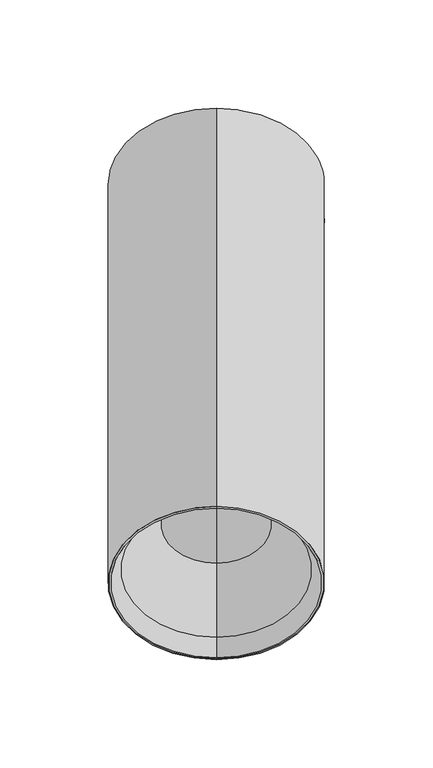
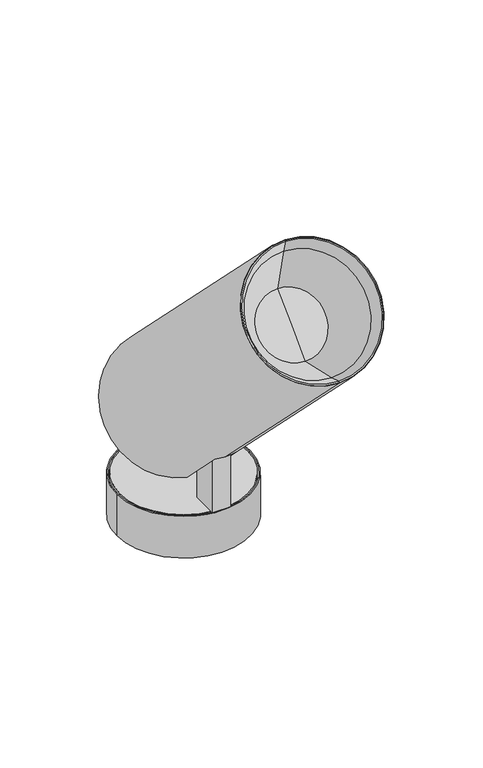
"""IFC4 building model written with IfcOpenShell, lengths in millimetres: light fixture geometry, PIPES C S : 1700 21W-830 28°."""

from ifc_helpers import new_model, si_unit, point, frame, frame_2d, origin, origin_with_axes, origin_2d, place, context, project, spatial, polyline, circle_curve, trimmed, segment, composite_curve, outline, extrude, source, transform, mapped, element, save
from ifc_brep_helpers import plane_surface, cylinder_surface, revolved_surface, advanced_brep


def light_fixture_deb394d0(model_context):
    return source(origin(), model_context, "Body", "SolidModel", [
        advanced_brep(
        [(8.0, -40.7071068, 92.8492424), (8.0, -12.4228355, 64.5649712), (8.0, -24.6760332, 52.3117735), (8.0, -16.8978586, 44.5335989), (8.0, -18.3313142, 43.1001433), (8.0, -54.3937601, 79.1625891), (-8.0, -40.7071068, 92.8492424), (-8.0, -54.3937601, 79.1625891), (-8.0, -18.3313142, 43.1001433), (-8.0, -16.8978586, 44.5335989), (-8.0, -24.6760332, 52.3117735), (-8.0, -12.4228355, 64.5649712), (0.0, -12.4228355, 64.5649712), (0.0, -54.8492424, 78.7071068), (0.0, -131.9238816, 297.2031022), (0.0, -202.6345597, 226.492424), (0.0, -192.4399527, 223.5599433), (0.0, -128.9914008, 287.0084952), (0.0, 51.9238816, 113.3553391), (0.0, 50.509668, 111.9411255), (0.0, 42.7314934, 119.7193001), (0.0, 8.7903679, 85.7781746), (0.0, -121.1401713, 252.3808823), (0.0, -157.8123398, 215.7087138), (0.0, -139.4762556, 234.0447981)],
        [
            (0, 1),
            (1, 2),
            (2, 3),
            (3, 4),
            (4, 5),
            (5, 0),
            (6, 7),
            (7, 8),
            (8, 9),
            (9, 10),
            (10, 11),
            (11, 6),
            (0, 6),
            (11, 12),
            (12, 1),
            (5, 13, circle_curve(frame((0.0, -19.4939033, 114.0624458), z_axis=(0.0, 0.7071067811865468, -0.7071067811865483), x_axis=(0.0, -0.7071067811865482, -0.7071067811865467)), 50.0)),
            (13, 7, circle_curve(frame((0.0, -19.4939033, 114.0624458), z_axis=(0.0, 0.7071067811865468, -0.7071067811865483), x_axis=(0.0, -0.7071067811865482, -0.7071067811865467)), 50.0)),
            (14, 15, circle_curve(frame((0.0, -167.2792206, 261.8477631), z_axis=(0.0, -0.7071067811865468, 0.7071067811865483), x_axis=(0.0, -0.7071067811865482, -0.7071067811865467)), 50.0)),
            (15, 16),
            (16, 17, circle_curve(frame((0.0, -160.7156767, 255.2842192), z_axis=(0.0, 0.7071067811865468, -0.7071067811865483), x_axis=(0.0, -0.7071067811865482, -0.7071067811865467)), 44.8649013)),
            (17, 14),
            (15, 14, circle_curve(frame((0.0, -167.2792206, 261.8477631), z_axis=(0.0, -0.7071067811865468, 0.7071067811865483), x_axis=(0.0, -0.7071067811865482, -0.7071067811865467)), 50.0)),
            (17, 16, circle_curve(frame((0.0, -160.7156767, 255.2842192), z_axis=(0.0, 0.7071067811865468, -0.7071067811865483), x_axis=(0.0, -0.7071067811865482, -0.7071067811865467)), 44.8649013)),
            (14, 18),
            (18, 8, circle_curve(frame((0.0, 16.5685425, 78.0), z_axis=(0.0, -0.7071067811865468, 0.7071067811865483), x_axis=(0.0, -0.7071067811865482, -0.7071067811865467)), 50.0)),
            (13, 15),
            (4, 18, circle_curve(frame((0.0, 16.5685425, 78.0), z_axis=(0.0, -0.7071067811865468, 0.7071067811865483), x_axis=(0.0, -0.7071067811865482, -0.7071067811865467)), 50.0)),
            (18, 19),
            (19, 9, circle_curve(frame((0.0, 16.5685425, 78.0), z_axis=(0.0, -0.7071067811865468, 0.7071067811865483), x_axis=(0.0, -0.7071067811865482, -0.7071067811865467)), 48.0)),
            (3, 19, circle_curve(frame((0.0, 16.5685425, 78.0), z_axis=(0.0, -0.7071067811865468, 0.7071067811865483), x_axis=(0.0, -0.7071067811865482, -0.7071067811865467)), 48.0)),
            (19, 20),
            (20, 10, circle_curve(frame((0.0, 8.7903679, 85.7781746), z_axis=(0.0, -0.7071067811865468, 0.7071067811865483), x_axis=(0.0, -0.7071067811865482, -0.7071067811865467)), 48.0)),
            (2, 20, circle_curve(frame((0.0, 8.7903679, 85.7781746), z_axis=(0.0, -0.7071067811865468, 0.7071067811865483), x_axis=(0.0, -0.7071067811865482, -0.7071067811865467)), 48.0)),
            (20, 21),
            (21, 12),
            (22, 23, circle_curve(frame((0.0, -139.4762556, 234.0447981), z_axis=(0.0, -0.7071067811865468, 0.7071067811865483), x_axis=(0.0, -0.7071067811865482, -0.7071067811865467)), 25.931139)),
            (23, 24),
            (24, 22),
            (23, 22, circle_curve(frame((0.0, -139.4762556, 234.0447981), z_axis=(0.0, -0.7071067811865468, 0.7071067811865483), x_axis=(0.0, -0.7071067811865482, -0.7071067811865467)), 25.931139)),
            (16, 23),
            (22, 17),
        ],
        [
            plane_surface(frame((8.0, -40.7071068, 92.8492424), z_axis=(-1.0000000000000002, 0.0, 0.0), x_axis=(0.0, -0.707106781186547, 0.7071067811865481))),
            plane_surface(frame((-8.0, -40.7071068, 92.8492424), z_axis=(1.0000000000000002, 0.0, 0.0), x_axis=(0.0, 0.707106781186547, -0.7071067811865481))),
            plane_surface(frame((-8.0, -40.7071068, 92.8492424), z_axis=(0.0, -0.7071067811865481, -0.707106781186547), x_axis=(1.0, 0.0, 0.0))),
            plane_surface(frame((-8.0, -58.3847763, 75.1715729), z_axis=(0.0, 0.7071067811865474, -0.7071067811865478), x_axis=(1.0, 0.0, 0.0))),
            revolved_surface(polyline([(0.0, -192.4399527, 223.5599433), (0.0, -202.6345597, 226.492424)]), (0.0, 20.423958, 74.1445845), (0.0, 0.7071067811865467, -0.7071067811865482)),
            cylinder_surface(frame((0.0, 20.423958, 74.1445845), z_axis=(0.0, 0.7071067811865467, -0.7071067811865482), x_axis=(0.0, -0.7071067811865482, -0.7071067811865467)), 50.0),
            plane_surface(frame((0.0, 16.5685425, 78.0), z_axis=(0.0, 0.7071067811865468, -0.7071067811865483), x_axis=(0.0, -0.7071067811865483, -0.7071067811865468))),
            revolved_surface(polyline([(0.0, -17.37258299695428, 44.05887450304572), (0.0, -25.150757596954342, 51.8370491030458)]), (0.0, 20.423958, 74.1445845), (0.0, 0.7071067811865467, -0.7071067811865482)),
            plane_surface(frame((0.0, 8.7903679, 85.7781746), z_axis=(0.0, 0.7071067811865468, -0.7071067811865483), x_axis=(0.0, -0.7071067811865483, -0.7071067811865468))),
            plane_surface(frame((0.0, -139.4762556, 234.0447981), z_axis=(0.0, -0.7071067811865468, 0.7071067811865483), x_axis=(0.0, -0.7071067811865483, -0.7071067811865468))),
            revolved_surface(polyline([(0.0, -157.8123398, 215.7087138), (0.0, -192.4399527, 223.5599433)]), (0.0, 20.423958, 74.1445845), (0.0, 0.7071067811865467, -0.7071067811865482)),
        ],
        [
            (0, [[1, 2, 3, 4, 5, 6]]),
            (1, [[7, 8, 9, 10, 11, 12]]),
            (2, [[13, -12, 14, 15, -1]]),
            (3, [[-13, -6, 16, 17, -7]]),
            (4, [[18, 19, 20, 21]]),
            (4, [[-19, 22, -21, 23]]),
            (5, [[-18, 24, 25, -8, -17, 26]]),
            (5, [[-22, -26, -16, -5, 27, -24]]),
            (6, [[28, 29, -9, -25]]),
            (6, [[-28, -27, -4, 30]]),
            (7, [[31, 32, -10, -29]]),
            (7, [[-31, -30, -3, 33]]),
            (8, [[34, 35, -14, -11, -32]]),
            (8, [[-34, -33, -2, -15, -35]]),
            (9, [[36, 37, 38]]),
            (9, [[-37, 39, -38]]),
            (10, [[-20, 40, -36, 41]]),
            (10, [[-23, -41, -39, -40]]),
        ],
    ),
        advanced_brep(
        [(8.0, -6.0588745, 58.2010101), (8.0, -4.6446609, 56.7867966), (8.0, -15.4617748, 45.9696827), (8.0, -16.8759884, 47.3838962), (-8.0, -4.6446609, 56.7867966), (-8.0, -6.0588745, 58.2010101), (-8.0, -16.8759884, 47.3838962), (-8.0, -15.4617748, 45.9696827), (0.0, -6.0588745, 58.2010101), (0.0, -4.6446609, 56.7867966), (0.0, 15.3916912, 79.6515758), (0.0, 48.1514705, 112.4113551), (0.0, 49.5656841, 110.9971416), (0.0, 16.8059047, 78.2373622)],
        [
            (0, 1),
            (1, 2),
            (2, 3),
            (3, 0),
            (4, 5),
            (5, 6),
            (6, 7),
            (7, 4),
            (0, 8),
            (8, 5),
            (4, 9),
            (9, 1),
            (10, 11),
            (11, 6, circle_curve(frame((0.0, 15.3916912, 79.6515758), z_axis=(0.0, -0.7071067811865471, 0.7071067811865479), x_axis=(0.0, -0.7071067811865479, -0.7071067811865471)), 46.3293243)),
            (8, 10),
            (3, 11, circle_curve(frame((0.0, 15.3916912, 79.6515758), z_axis=(0.0, -0.7071067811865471, 0.7071067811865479), x_axis=(0.0, -0.7071067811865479, -0.7071067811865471)), 46.3293243)),
            (11, 12),
            (12, 7, circle_curve(frame((0.0, 16.8059047, 78.2373622), z_axis=(0.0, -0.7071067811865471, 0.7071067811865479), x_axis=(0.0, -0.7071067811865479, -0.7071067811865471)), 46.3293243)),
            (2, 12, circle_curve(frame((0.0, 16.8059047, 78.2373622), z_axis=(0.0, -0.7071067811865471, 0.7071067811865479), x_axis=(0.0, -0.7071067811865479, -0.7071067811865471)), 46.3293243)),
            (12, 13),
            (13, 9),
        ],
        [
            plane_surface(frame((8.0, -40.7071068, 92.8492424), z_axis=(-1.0000000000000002, 0.0, 0.0), x_axis=(0.0, -0.707106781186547, 0.7071067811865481))),
            plane_surface(frame((-8.0, -40.7071068, 92.8492424), z_axis=(1.0000000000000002, 0.0, 0.0), x_axis=(0.0, 0.707106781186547, -0.7071067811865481))),
            plane_surface(frame((-8.0, -40.7071068, 92.8492424), z_axis=(0.0, -0.7071067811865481, -0.707106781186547), x_axis=(1.0, 0.0, 0.0))),
            plane_surface(frame((0.0, 15.3916912, 79.6515758), z_axis=(0.0, -0.7071067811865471, 0.7071067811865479), x_axis=(0.0, -0.7071067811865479, -0.7071067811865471))),
            cylinder_surface(frame((0.0, 20.6613203, 74.3819467), z_axis=(0.0, 0.7071067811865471, -0.7071067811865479), x_axis=(0.0, -0.7071067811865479, -0.7071067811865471)), 46.3293243),
            plane_surface(frame((0.0, 16.8059047, 78.2373622), z_axis=(0.0, 0.7071067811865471, -0.7071067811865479), x_axis=(0.0, -0.7071067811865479, -0.7071067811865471))),
        ],
        [
            (0, [[1, 2, 3, 4]]),
            (1, [[5, 6, 7, 8]]),
            (2, [[-1, 9, 10, -5, 11, 12]]),
            (3, [[13, 14, -6, -10, 15]]),
            (3, [[-13, -15, -9, -4, 16]]),
            (4, [[17, 18, -7, -14]]),
            (4, [[-17, -16, -3, 19]]),
            (5, [[20, 21, -11, -8, -18]]),
            (5, [[-20, -19, -2, -12, -21]]),
        ],
    ),
        advanced_brep(
        [(0.0, -131.9238816, 297.2031022), (0.0, -202.6345597, 226.492424), (0.0, -201.8264604, 227.3005233), (0.0, -132.7319808, 296.3950029), (0.0, -122.2374197, 252.6978475), (0.0, -158.129305, 216.8059622), (0.0, -140.1833624, 234.7519049), (0.0, -129.9603297, 286.7595114), (0.0, -192.1909689, 224.5288722), (0.0, -128.9914008, 287.0084952), (0.0, -192.4399527, 223.5599433), (0.0, -121.1401713, 252.3808823), (0.0, -157.8123398, 215.7087138), (0.0, -139.4762556, 234.0447981)],
        [
            (0, 1, circle_curve(frame((0.0, -167.2792206, 261.8477631), z_axis=(0.0, -0.7071067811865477, 0.7071067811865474), x_axis=(0.0, -0.7071067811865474, -0.7071067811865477)), 50.0)),
            (1, 2),
            (2, 3, circle_curve(frame((0.0, -167.2792206, 261.8477631), z_axis=(0.0, 0.7071067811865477, -0.7071067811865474), x_axis=(0.0, -0.7071067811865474, -0.7071067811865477)), 48.857175)),
            (3, 0),
            (1, 0, circle_curve(frame((0.0, -167.2792206, 261.8477631), z_axis=(0.0, -0.7071067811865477, 0.7071067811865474), x_axis=(0.0, -0.7071067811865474, -0.7071067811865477)), 50.0)),
            (3, 2, circle_curve(frame((0.0, -167.2792206, 261.8477631), z_axis=(0.0, 0.7071067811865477, -0.7071067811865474), x_axis=(0.0, -0.7071067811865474, -0.7071067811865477)), 48.857175)),
            (4, 5, circle_curve(frame((0.0, -140.1833624, 234.7519049), z_axis=(0.0, -0.7071067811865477, 0.7071067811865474), x_axis=(0.0, -0.7071067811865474, -0.7071067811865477)), 25.3793955)),
            (5, 6),
            (6, 4),
            (5, 4, circle_curve(frame((0.0, -140.1833624, 234.7519049), z_axis=(0.0, -0.7071067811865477, 0.7071067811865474), x_axis=(0.0, -0.7071067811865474, -0.7071067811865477)), 25.3793955)),
            (7, 8, circle_curve(frame((0.0, -161.0756493, 255.6441918), z_axis=(0.0, -0.7071067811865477, 0.7071067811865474), x_axis=(0.0, -0.7071067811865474, -0.7071067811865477)), 44.0037069)),
            (8, 5),
            (4, 7),
            (8, 7, circle_curve(frame((0.0, -161.0756493, 255.6441918), z_axis=(0.0, -0.7071067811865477, 0.7071067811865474), x_axis=(0.0, -0.7071067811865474, -0.7071067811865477)), 44.0037069)),
            (9, 10, circle_curve(frame((0.0, -160.7156767, 255.2842192), z_axis=(0.0, -0.7071067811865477, 0.7071067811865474), x_axis=(0.0, -0.7071067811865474, -0.7071067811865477)), 44.8649013)),
            (10, 1),
            (0, 9),
            (10, 9, circle_curve(frame((0.0, -160.7156767, 255.2842192), z_axis=(0.0, -0.7071067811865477, 0.7071067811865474), x_axis=(0.0, -0.7071067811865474, -0.7071067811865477)), 44.8649013)),
            (11, 12, circle_curve(frame((0.0, -139.4762556, 234.0447981), z_axis=(0.0, -0.7071067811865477, 0.7071067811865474), x_axis=(0.0, -0.7071067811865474, -0.7071067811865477)), 25.931139)),
            (12, 10),
            (9, 11),
            (12, 11, circle_curve(frame((0.0, -139.4762556, 234.0447981), z_axis=(0.0, -0.7071067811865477, 0.7071067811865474), x_axis=(0.0, -0.7071067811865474, -0.7071067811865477)), 25.931139)),
            (13, 12),
            (11, 13),
            (2, 8),
            (7, 3),
        ],
        [
            plane_surface(frame((0.0, -167.2792206, 261.8477631), z_axis=(0.0, -0.7071067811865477, 0.7071067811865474), x_axis=(0.0, -0.7071067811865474, -0.7071067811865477))),
            plane_surface(frame((0.0, -140.1833624, 234.7519049), z_axis=(0.0, -0.7071067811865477, 0.7071067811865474), x_axis=(0.0, -0.7071067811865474, -0.7071067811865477))),
            revolved_surface(polyline([(0.0, -158.129305, 216.8059622), (0.0, -192.1909689, 224.5288722)]), (0.0, 20.9994331, 73.5691094), (0.0, 0.7071067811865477, -0.7071067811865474)),
            revolved_surface(polyline([(0.0, -202.6345597, 226.492424), (0.0, -192.4399527, 223.5599433)]), (0.0, 20.9994331, 73.5691094), (0.0, 0.7071067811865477, -0.7071067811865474)),
            revolved_surface(polyline([(0.0, -192.4399527, 223.5599433), (0.0, -157.8123398, 215.7087138)]), (0.0, 20.9994331, 73.5691094), (0.0, 0.7071067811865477, -0.7071067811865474)),
            plane_surface(frame((0.0, -139.4762556, 234.0447981), z_axis=(0.0, 0.7071067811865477, -0.7071067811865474), x_axis=(0.0, -0.7071067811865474, -0.7071067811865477))),
            revolved_surface(polyline([(0.0, -192.1909689, 224.5288722), (0.0, -201.8264604, 227.3005233)]), (0.0, 20.9994331, 73.5691094), (0.0, 0.7071067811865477, -0.7071067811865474)),
        ],
        [
            (0, [[1, 2, 3, 4]]),
            (0, [[5, -4, 6, -2]]),
            (1, [[7, 8, 9]]),
            (1, [[10, -9, -8]]),
            (2, [[11, 12, -7, 13]]),
            (2, [[14, -13, -10, -12]]),
            (3, [[15, 16, -1, 17]]),
            (3, [[18, -17, -5, -16]]),
            (4, [[19, 20, -15, 21]]),
            (4, [[22, -21, -18, -20]]),
            (5, [[23, -19, 24]]),
            (5, [[-24, -22, -23]]),
            (6, [[-3, 25, -11, 26]]),
            (6, [[-6, -26, -14, -25]]),
        ],
    ),
        extrude(outline(composite_curve([segment(trimmed(circle_curve(origin_2d(), 48.0), [point((-48.0, 0.0))], [point((48.0, 0.0))], False, "CARTESIAN"), True, "CONTINUOUS"), segment(trimmed(circle_curve(origin_2d(), 48.0), [point((48.0, 0.0))], [point((-48.0, 0.0))], False, "CARTESIAN"), True, "CONTINUOUS")], self_intersect=False)), origin_with_axes(), (0.0, 0.0, 1.0), 33.0),
        extrude(outline(composite_curve([segment(polyline([(-30.0074467, 79.5474065), (-30.0074467, 33.0), (-49.0, 33.0), (-49.0, 86.7928568), (-46.5, 86.7928568), (-46.5, 89.0), (-37.3622808, 87.7157773)]), True, "CONTINUOUS"), segment(trimmed(circle_curve(frame_2d((-38.5522063, 79.2490169)), 8.5499681), [point((-37.3622808, 87.7157773))], [point((-30.0074467, 79.5474065))], False, "CARTESIAN"), True, "CONTINUOUS")], self_intersect=False)), frame((-7.0, 0.0, 0.0), z_axis=(1.0, 0.0, 0.0), x_axis=(0.0, 1.0, 0.0)), (0.0, 0.0, 1.0), 14.0),
        extrude(outline(composite_curve([segment(trimmed(circle_curve(origin_2d(), 50.0), [point((-50.0, 0.0))], [point((50.0, 0.0))], False, "CARTESIAN"), True, "CONTINUOUS"), segment(trimmed(circle_curve(origin_2d(), 50.0), [point((50.0, 0.0))], [point((-50.0, 0.0))], False, "CARTESIAN"), True, "CONTINUOUS")], self_intersect=False), holes=[composite_curve([segment(trimmed(circle_curve(origin_2d(), 49.0), [point((-49.0, 0.0))], [point((49.0, 0.0))], True, "CARTESIAN"), True, "CONTINUOUS"), segment(trimmed(circle_curve(origin_2d(), 49.0), [point((49.0, 0.0))], [point((-49.0, 0.0))], True, "CARTESIAN"), True, "CONTINUOUS")], self_intersect=False)]), origin_with_axes(), (0.0, 0.0, 1.0), 33.0),
    ])


if __name__ == "__main__":
    model = new_model("IFC4")
    model_context = context("Model", 3, world=origin())
    ifc_project = project(units=[si_unit("LENGTHUNIT", "METRE", prefix="MILLI")], contexts=[model_context])
    site = spatial("IfcSite", under=ifc_project)
    building = spatial("IfcBuilding", under=site)
    placement = place(None, origin())
    light_fixture_shape = light_fixture_deb394d0(model_context)
    element("IfcLightFixture", 1, ObjectType="PIPES C S : 1700 21W-830 28°", at=placement, inside=building, context=model_context, shape_type="MappedRepresentation", body=[
        mapped(light_fixture_shape, transform((0.0, 0.0, 0.0), x_axis=(1.0, 0.0, 0.0), y_axis=(0.0, 1.0, 0.0), z_axis=(0.0, 0.0, 1.0))),
    ])
    save(model, "model.ifc")
